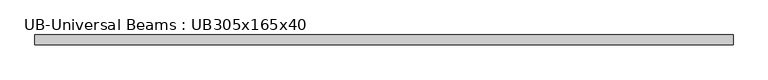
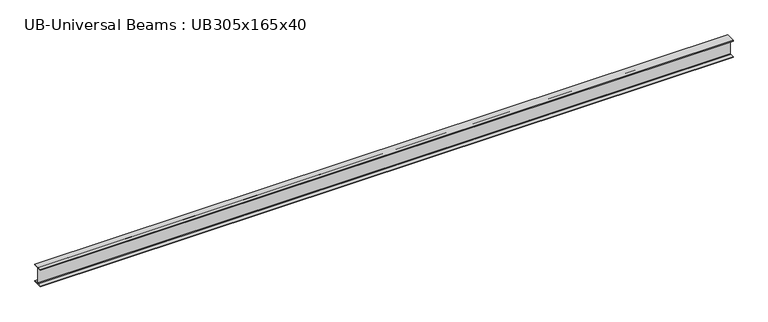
"""IFC4 building model written with IfcOpenShell, lengths in millimetres: beam geometry, UB-Universal Beams : UB305x165x40."""

from ifc_helpers import new_model, si_unit, point, frame, frame_2d, origin, place, context, project, spatial, polyline, circle_curve, trimmed, segment, composite_curve, outline, extrude, source, transform, mapped, element, save


def ub_universal_beams_ub305x165x40_47e0d0ad(model_context):
    return source(origin(), model_context, "Body", "SweptSolid", [
        extrude(outline(composite_curve([segment(polyline([(82.5, -141.5), (82.5, -151.7), (-82.5, -151.7), (-82.5, -141.5), (-11.9, -141.5)]), True, "CONTINUOUS"), segment(trimmed(circle_curve(frame_2d((-11.9, -132.6)), 8.9), [point((-11.9, -141.5))], [point((-3.0, -132.6))], True, "CARTESIAN"), True, "CONTINUOUS"), segment(polyline([(-3.0, -132.6), (-3.0, 132.6)]), True, "CONTINUOUS"), segment(trimmed(circle_curve(frame_2d((-11.9, 132.6)), 8.9), [point((-3.0, 132.6))], [point((-11.9, 141.5))], True, "CARTESIAN"), True, "CONTINUOUS"), segment(polyline([(-11.9, 141.5), (-82.5, 141.5), (-82.5, 151.7), (82.5, 151.7), (82.5, 141.5), (11.9, 141.5)]), True, "CONTINUOUS"), segment(trimmed(circle_curve(frame_2d((11.9, 132.6)), 8.9), [point((11.9, 141.5))], [point((3.0, 132.6))], True, "CARTESIAN"), True, "CONTINUOUS"), segment(polyline([(3.0, 132.6), (3.0, -132.6)]), True, "CONTINUOUS"), segment(trimmed(circle_curve(frame_2d((11.9, -132.6)), 8.9), [point((3.0, -132.6))], [point((11.9, -141.5))], True, "CARTESIAN"), True, "CONTINUOUS"), segment(polyline([(11.9, -141.5), (82.5, -141.5)]), True, "CONTINUOUS")], self_intersect=False)), frame((-5839.0, 0.0, 0.0), z_axis=(1.0, 0.0, 0.0), x_axis=(0.0, 1.0, 0.0)), (0.0, 0.0, 1.0), 11829.3),
    ])


if __name__ == "__main__":
    model = new_model("IFC4")
    model_context = context("Model", 3, world=origin())
    ifc_project = project(units=[si_unit("LENGTHUNIT", "METRE", prefix="MILLI")], contexts=[model_context])
    site = spatial("IfcSite", under=ifc_project)
    building = spatial("IfcBuilding", under=site)
    placement = place(None, origin())
    ub_universal_beams_ub305x165x40_shape = ub_universal_beams_ub305x165x40_47e0d0ad(model_context)
    element("IfcBeam", 1, ObjectType="UB-Universal Beams : UB305x165x40", at=placement, inside=building, context=model_context, shape_type="MappedRepresentation", body=[
        mapped(ub_universal_beams_ub305x165x40_shape, transform((0.0, 0.0, 0.0), x_axis=(1.0, 0.0, 0.0), y_axis=(0.0, 1.0, 0.0), z_axis=(0.0, 0.0, 1.0))),
    ])
    save(model, "model.ifc")
